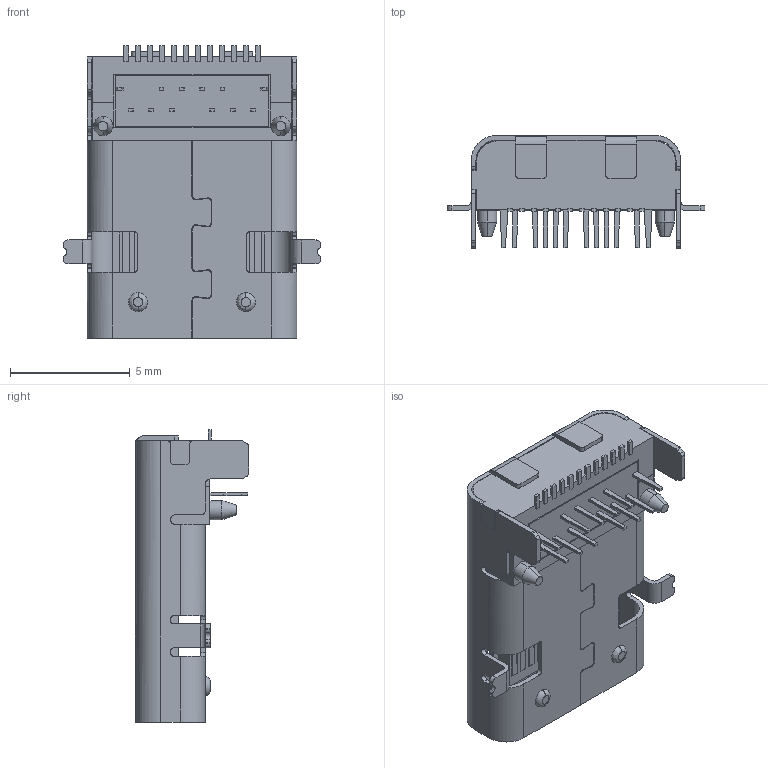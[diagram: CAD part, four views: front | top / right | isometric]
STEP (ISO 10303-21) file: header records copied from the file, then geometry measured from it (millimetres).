
FILE_DESCRIPTION (( 'STEP AP214' ), '1' );
FILE_NAME ('U5143-24PNT11.95L.STEP', '2026-06-02T07:06:28', ( '' ), ( '' ), 'SwSTEP 2.0', 'SolidWorks 2024', '' );
FILE_SCHEMA (( 'AUTOMOTIVE_DESIGN' ));
Length unit declared in the file: millimetre
Products named in the file (1): U5143-24PNT11.95L
Bounding box: 10.75 x 4.72 x 12.2 mm (x, y, z)
Volume: 191.5 mm3; surface area: 729.8 mm2
Topology: 1 solids, 1 shells, 586 faces, 1697 edges, 1118 vertices
Faces by surface type: bspline 586
Entity records: 18502 total; most frequent: CARTESIAN_POINT 8447, ORIENTED_EDGE 3394, EDGE_CURVE 1697, B_SPLINE_CURVE_WITH_KNOTS 1564, VERTEX_POINT 1118, EDGE_LOOP 609, ADVANCED_FACE 586, FACE_OUTER_BOUND 586
